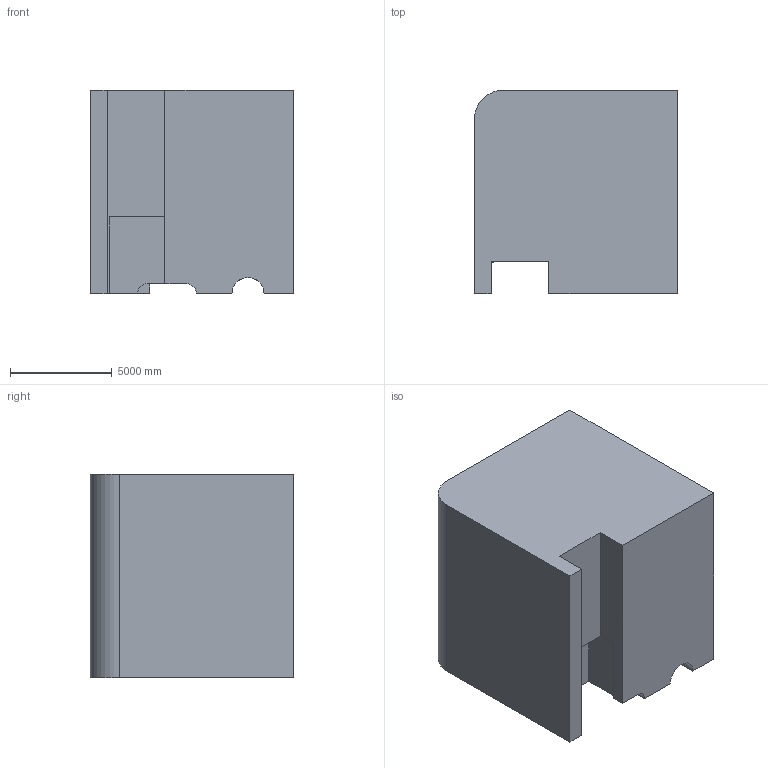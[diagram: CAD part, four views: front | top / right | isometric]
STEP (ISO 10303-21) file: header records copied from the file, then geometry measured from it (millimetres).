
FILE_DESCRIPTION (( 'STEP AP203' ), '1' );
FILE_NAME ('156.STEP', '2022-09-06T16:15:46', ( 'user' ), ( '' ), 'SwSTEP 2.0', 'SolidWorks 2021', '' );
FILE_SCHEMA (( 'CONFIG_CONTROL_DESIGN' ));
Length unit declared in the file: centimetre
Products named in the file (1): 156
Bounding box: 10000 x 10000 x 10000 mm (x, y, z)
Volume: 884456694174.7 mm3; surface area: 620126030.7 mm2
Topology: 1 solids, 1 shells, 25 faces, 69 edges, 46 vertices
Faces by surface type: plane 20, cylinder 5
Entity records: 1038 total; most frequent: CARTESIAN_POINT 315, ORIENTED_EDGE 138, DIRECTION 127, EDGE_CURVE 69, VECTOR 59, LINE 59, VERTEX_POINT 46, AXIS2_PLACEMENT_3D 34
